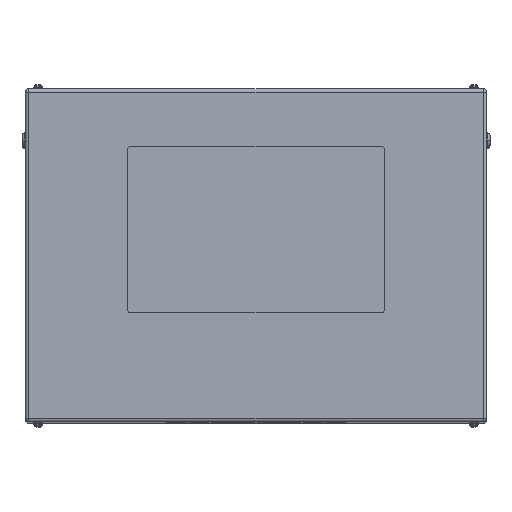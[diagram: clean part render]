
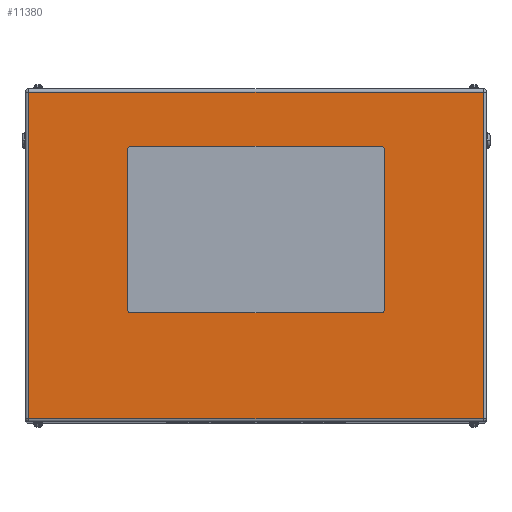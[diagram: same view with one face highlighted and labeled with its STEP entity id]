
A CAD part, top view. The second image highlights one B-rep face of the part: STEP entity #11380.
In plain terms, the highlighted planar face has unit normal (0, 0, 1).
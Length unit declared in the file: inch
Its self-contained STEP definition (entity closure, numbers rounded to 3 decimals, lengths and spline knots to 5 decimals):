
#101 = EDGE_CURVE ( 'NONE', #2297, #9576, #805, .T. ) ;
#177 = CARTESIAN_POINT ( 'NONE',  ( -17.734, 13., 32. ) ) ;
#247 = VERTEX_POINT ( 'NONE', #20634 ) ;
#256 = CIRCLE ( 'NONE', #5628, 0.25 ) ;
#665 = ORIENTED_EDGE ( 'NONE', *, *, #1192, .F. ) ;
#788 = CARTESIAN_POINT ( 'NONE',  ( 17.734, 12.734, 32. ) ) ;
#805 = LINE ( 'NONE', #12162, #17778 ) ;
#829 = CARTESIAN_POINT ( 'NONE',  ( 9.75, -4.5, 32. ) ) ;
#840 = DIRECTION ( 'NONE',  ( 0., 0., 1. ) ) ;
#1008 = FACE_OUTER_BOUND ( 'NONE', #5138, .T. ) ;
#1192 = EDGE_CURVE ( 'NONE', #5979, #20554, #3571, .T. ) ;
#1281 = VERTEX_POINT ( 'NONE', #1595 ) ;
#1595 = CARTESIAN_POINT ( 'NONE',  ( 10., 8.25, 32. ) ) ;
#1623 = LINE ( 'NONE', #19067, #7640 ) ;
#1642 = EDGE_CURVE ( 'NONE', #20554, #1281, #6562, .T. ) ;
#1812 = EDGE_CURVE ( 'NONE', #17000, #247, #12915, .T. ) ;
#2297 = VERTEX_POINT ( 'NONE', #14009 ) ;
#2504 = CARTESIAN_POINT ( 'NONE',  ( 9.75, 8.25, 32. ) ) ;
#2726 = ORIENTED_EDGE ( 'NONE', *, *, #1642, .F. ) ;
#2743 = CARTESIAN_POINT ( 'NONE',  ( 10., -4.25, 32. ) ) ;
#2861 = VECTOR ( 'NONE', #20585, 39.37008 ) ;
#3038 = EDGE_CURVE ( 'NONE', #14134, #19282, #19740, .T. ) ;
#3045 = EDGE_CURVE ( 'NONE', #1281, #14134, #14189, .T. ) ;
#3149 = CARTESIAN_POINT ( 'NONE',  ( -10., -4.25, 32. ) ) ;
#3571 = CIRCLE ( 'NONE', #15335, 0.25 ) ;
#3866 = VECTOR ( 'NONE', #16079, 39.37008 ) ;
#3940 = DIRECTION ( 'NONE',  ( 0., 0., 1. ) ) ;
#4171 = CARTESIAN_POINT ( 'NONE',  ( -9.75, -4.5, 32. ) ) ;
#4359 = DIRECTION ( 'NONE',  ( 0., 0., -1. ) ) ;
#4785 = EDGE_CURVE ( 'NONE', #16762, #5979, #15448, .T. ) ;
#4856 = CARTESIAN_POINT ( 'NONE',  ( 17.734, -12.734, 32. ) ) ;
#5138 = EDGE_LOOP ( 'NONE', ( #16043, #19466, #16132, #16203 ) ) ;
#5628 = AXIS2_PLACEMENT_3D ( 'NONE', #18838, #6072, #12377 ) ;
#5753 = ORIENTED_EDGE ( 'NONE', *, *, #3038, .F. ) ;
#5979 = VERTEX_POINT ( 'NONE', #829 ) ;
#6072 = DIRECTION ( 'NONE',  ( 0., 0., 1. ) ) ;
#6298 = EDGE_CURVE ( 'NONE', #20181, #17000, #9764, .T. ) ;
#6491 = CARTESIAN_POINT ( 'NONE',  ( 17.734, -12.734, 32. ) ) ;
#6495 = VECTOR ( 'NONE', #17737, 39.37008 ) ;
#6562 = LINE ( 'NONE', #11375, #6495 ) ;
#6858 = AXIS2_PLACEMENT_3D ( 'NONE', #2504, #840, #10246 ) ;
#7640 = VECTOR ( 'NONE', #11129, 39.37008 ) ;
#8496 = VECTOR ( 'NONE', #9777, 39.37008 ) ;
#8554 = CARTESIAN_POINT ( 'NONE',  ( -9.75, 8.5, 32. ) ) ;
#8961 = EDGE_LOOP ( 'NONE', ( #9548, #9895, #13792, #19175, #5753, #16158, #2726, #665 ) ) ;
#9478 = CARTESIAN_POINT ( 'NONE',  ( 9.75, -4.25, 32. ) ) ;
#9548 = ORIENTED_EDGE ( 'NONE', *, *, #4785, .F. ) ;
#9576 = VERTEX_POINT ( 'NONE', #3149 ) ;
#9589 = DIRECTION ( 'NONE',  ( 0., 0., 1. ) ) ;
#9764 = LINE ( 'NONE', #11014, #18247 ) ;
#9777 = DIRECTION ( 'NONE',  ( 0., -1., 0. ) ) ;
#9895 = ORIENTED_EDGE ( 'NONE', *, *, #13419, .F. ) ;
#10050 = EDGE_CURVE ( 'NONE', #19282, #2297, #12774, .T. ) ;
#10246 = DIRECTION ( 'NONE',  ( -1., 0., 0. ) ) ;
#10397 = DIRECTION ( 'NONE',  ( 1., 0., 0. ) ) ;
#10504 = FACE_BOUND ( 'NONE', #8961, .T. ) ;
#10730 = DIRECTION ( 'NONE',  ( 1., 0., 0. ) ) ;
#11014 = CARTESIAN_POINT ( 'NONE',  ( 18., 12.734, 32. ) ) ;
#11129 = DIRECTION ( 'NONE',  ( 0., 1., 0. ) ) ;
#11375 = CARTESIAN_POINT ( 'NONE',  ( 10., 8.25, 32. ) ) ;
#11380 = ADVANCED_FACE ( 'NONE', ( #10504, #1008 ), #20208, .F. ) ;
#11507 = CARTESIAN_POINT ( 'NONE',  ( -9.75, 8.5, 32. ) ) ;
#12162 = CARTESIAN_POINT ( 'NONE',  ( -10., 8.25, 32. ) ) ;
#12223 = CARTESIAN_POINT ( 'NONE',  ( -9.75, -4.5, 32. ) ) ;
#12262 = EDGE_CURVE ( 'NONE', #247, #13778, #13277, .T. ) ;
#12269 = DIRECTION ( 'NONE',  ( 0., -1., 0. ) ) ;
#12377 = DIRECTION ( 'NONE',  ( 1., 0., 0. ) ) ;
#12680 = DIRECTION ( 'NONE',  ( -1., 0., 0. ) ) ;
#12774 = CIRCLE ( 'NONE', #19786, 0.25 ) ;
#12915 = LINE ( 'NONE', #177, #8496 ) ;
#12927 = AXIS2_PLACEMENT_3D ( 'NONE', #16846, #4359, #20016 ) ;
#13277 = LINE ( 'NONE', #4856, #3866 ) ;
#13419 = EDGE_CURVE ( 'NONE', #9576, #16762, #256, .T. ) ;
#13778 = VERTEX_POINT ( 'NONE', #6491 ) ;
#13792 = ORIENTED_EDGE ( 'NONE', *, *, #101, .F. ) ;
#14009 = CARTESIAN_POINT ( 'NONE',  ( -10., 8.25, 32. ) ) ;
#14134 = VERTEX_POINT ( 'NONE', #15837 ) ;
#14189 = CIRCLE ( 'NONE', #6858, 0.25 ) ;
#15335 = AXIS2_PLACEMENT_3D ( 'NONE', #9478, #9589, #10730 ) ;
#15448 = LINE ( 'NONE', #12223, #2861 ) ;
#15837 = CARTESIAN_POINT ( 'NONE',  ( 9.75, 8.5, 32. ) ) ;
#15846 = VECTOR ( 'NONE', #20052, 39.37008 ) ;
#16043 = ORIENTED_EDGE ( 'NONE', *, *, #1812, .T. ) ;
#16079 = DIRECTION ( 'NONE',  ( 1., 0., 0. ) ) ;
#16132 = ORIENTED_EDGE ( 'NONE', *, *, #18158, .T. ) ;
#16158 = ORIENTED_EDGE ( 'NONE', *, *, #3045, .F. ) ;
#16203 = ORIENTED_EDGE ( 'NONE', *, *, #6298, .T. ) ;
#16631 = CARTESIAN_POINT ( 'NONE',  ( -9.75, 8.25, 32. ) ) ;
#16762 = VERTEX_POINT ( 'NONE', #4171 ) ;
#16846 = CARTESIAN_POINT ( 'NONE',  ( 18., 13., 32. ) ) ;
#17000 = VERTEX_POINT ( 'NONE', #17637 ) ;
#17637 = CARTESIAN_POINT ( 'NONE',  ( -17.734, 12.734, 32. ) ) ;
#17737 = DIRECTION ( 'NONE',  ( 0., 1., 0. ) ) ;
#17778 = VECTOR ( 'NONE', #12269, 39.37008 ) ;
#18158 = EDGE_CURVE ( 'NONE', #13778, #20181, #1623, .T. ) ;
#18247 = VECTOR ( 'NONE', #12680, 39.37008 ) ;
#18838 = CARTESIAN_POINT ( 'NONE',  ( -9.75, -4.25, 32. ) ) ;
#19067 = CARTESIAN_POINT ( 'NONE',  ( 17.734, 13., 32. ) ) ;
#19175 = ORIENTED_EDGE ( 'NONE', *, *, #10050, .F. ) ;
#19282 = VERTEX_POINT ( 'NONE', #11507 ) ;
#19466 = ORIENTED_EDGE ( 'NONE', *, *, #12262, .T. ) ;
#19740 = LINE ( 'NONE', #8554, #15846 ) ;
#19786 = AXIS2_PLACEMENT_3D ( 'NONE', #16631, #3940, #10397 ) ;
#20016 = DIRECTION ( 'NONE',  ( -1., 0., 0. ) ) ;
#20052 = DIRECTION ( 'NONE',  ( -1., 0., 0. ) ) ;
#20181 = VERTEX_POINT ( 'NONE', #788 ) ;
#20208 = PLANE ( 'NONE',  #12927 ) ;
#20554 = VERTEX_POINT ( 'NONE', #2743 ) ;
#20585 = DIRECTION ( 'NONE',  ( 1., 0., 0. ) ) ;
#20634 = CARTESIAN_POINT ( 'NONE',  ( -17.734, -12.734, 32. ) ) ;
